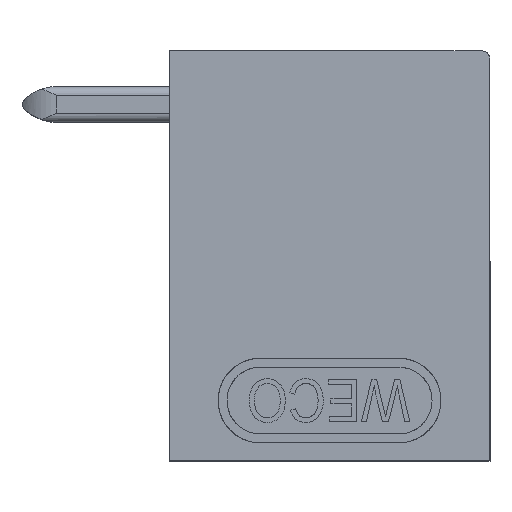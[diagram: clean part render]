
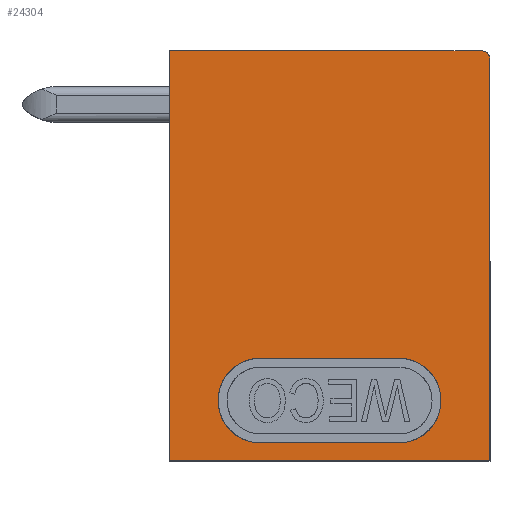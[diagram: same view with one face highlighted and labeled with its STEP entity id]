
A CAD part, top view. The second image highlights one B-rep face of the part: STEP entity #24304.
In plain terms, the highlighted planar face has unit normal (0, 0, 1).
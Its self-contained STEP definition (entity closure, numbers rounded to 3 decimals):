
#3540 = VERTEX_POINT ( 'NONE', #22873 ) ;
#7640 = EDGE_CURVE ( 'NONE', #7659, #7716, #14999, .T. ) ;
#7653 = VERTEX_POINT ( 'NONE', #14975 ) ;
#7659 = VERTEX_POINT ( 'NONE', #15022 ) ;
#7661 = EDGE_CURVE ( 'NONE', #7653, #7659, #15019, .T. ) ;
#7680 = EDGE_CURVE ( 'NONE', #7694, #7760, #15096, .T. ) ;
#7685 = EDGE_CURVE ( 'NONE', #7760, #7710, #15072, .T. ) ;
#7689 = EDGE_CURVE ( 'NONE', #7710, #3540, #15068, .T. ) ;
#7694 = VERTEX_POINT ( 'NONE', #15110 ) ;
#7696 = EDGE_CURVE ( 'NONE', #3540, #7694, #15109, .T. ) ;
#7702 = VERTEX_POINT ( 'NONE', #15165 ) ;
#7704 = EDGE_CURVE ( 'NONE', #7716, #7702, #15164, .T. ) ;
#7710 = VERTEX_POINT ( 'NONE', #15150 ) ;
#7716 = VERTEX_POINT ( 'NONE', #15141 ) ;
#7760 = VERTEX_POINT ( 'NONE', #15207 ) ;
#14975 = CARTESIAN_POINT ( 'NONE',  ( 3.9, 8.75, 0. ) ) ;
#14996 = DIRECTION ( 'NONE',  ( -1., 0., 0. ) ) ;
#14997 = VECTOR ( 'NONE', #14996, 1000. ) ;
#14998 = CARTESIAN_POINT ( 'NONE',  ( 0.3, 8.95, 0. ) ) ;
#14999 = LINE ( 'NONE', #14998, #14997 ) ;
#15010 = CARTESIAN_POINT ( 'NONE',  ( 3.7, 8.95, 0. ) ) ;
#15011 = CARTESIAN_POINT ( 'NONE',  ( 3.727, 8.95, 0. ) ) ;
#15012 = CARTESIAN_POINT ( 'NONE',  ( 3.753, 8.945, 0. ) ) ;
#15013 = CARTESIAN_POINT ( 'NONE',  ( 3.8, 8.925, 0. ) ) ;
#15014 = CARTESIAN_POINT ( 'NONE',  ( 3.823, 8.91, 0. ) ) ;
#15015 = CARTESIAN_POINT ( 'NONE',  ( 3.878, 8.855, 0. ) ) ;
#15016 = CARTESIAN_POINT ( 'NONE',  ( 3.9, 8.804, 0. ) ) ;
#15017 = CARTESIAN_POINT ( 'NONE',  ( 3.9, 8.75, 0. ) ) ;
#15019 = B_SPLINE_CURVE_WITH_KNOTS ( 'NONE', 3,
 ( #15017, #15016, #15015, #15014, #15013, #15012, #15011, #15010 ),
 .UNSPECIFIED., .F., .F.,
 ( 4, 2, 2, 4 ),
 ( 0., 0.5, 0.75, 1. ),
 .UNSPECIFIED. ) ;
#15022 = CARTESIAN_POINT ( 'NONE',  ( 3.7, 8.95, 0. ) ) ;
#15066 = CARTESIAN_POINT ( 'NONE',  ( -1.376, 0.15, 0. ) ) ;
#15067 = CARTESIAN_POINT ( 'NONE',  ( -1.25, 0.15, 0. ) ) ;
#15068 = B_SPLINE_CURVE_WITH_KNOTS ( 'NONE', 3,
 ( #15067, #15066, #15130, #15129, #15128, #15127, #15126, #15125, #15124, #15123, #15122, #15121, #15120, #15119, #15118, #15117, #15116, #15115 ),
 .UNSPECIFIED., .F., .F.,
 ( 4, 2, 2, 2, 2, 2, 2, 2, 4 ),
 ( 0., 0.125, 0.25, 0.375, 0.5, 0.625, 0.75, 0.875, 1. ),
 .UNSPECIFIED. ) ;
#15069 = DIRECTION ( 'NONE',  ( -1., 0., 0. ) ) ;
#15070 = VECTOR ( 'NONE', #15069, 1000. ) ;
#15071 = CARTESIAN_POINT ( 'NONE',  ( 0.3, 0.15, 0. ) ) ;
#15072 = LINE ( 'NONE', #15071, #15070 ) ;
#15073 = CARTESIAN_POINT ( 'NONE',  ( 1.85, 0.15, 0. ) ) ;
#15074 = CARTESIAN_POINT ( 'NONE',  ( 1.976, 0.15, 0. ) ) ;
#15075 = CARTESIAN_POINT ( 'NONE',  ( 2.097, 0.174, 0. ) ) ;
#15076 = CARTESIAN_POINT ( 'NONE',  ( 2.329, 0.27, 0. ) ) ;
#15077 = CARTESIAN_POINT ( 'NONE',  ( 2.433, 0.339, 0. ) ) ;
#15078 = CARTESIAN_POINT ( 'NONE',  ( 2.61, 0.517, 0. ) ) ;
#15079 = CARTESIAN_POINT ( 'NONE',  ( 2.679, 0.62, 0. ) ) ;
#15080 = CARTESIAN_POINT ( 'NONE',  ( 2.775, 0.852, 0. ) ) ;
#15081 = CARTESIAN_POINT ( 'NONE',  ( 2.8, 0.974, 0. ) ) ;
#15082 = CARTESIAN_POINT ( 'NONE',  ( 2.8, 1.225, 0. ) ) ;
#15083 = CARTESIAN_POINT ( 'NONE',  ( 2.776, 1.347, 0. ) ) ;
#15084 = CARTESIAN_POINT ( 'NONE',  ( 2.679, 1.579, 0. ) ) ;
#15085 = CARTESIAN_POINT ( 'NONE',  ( 2.61, 1.683, 0. ) ) ;
#15086 = CARTESIAN_POINT ( 'NONE',  ( 2.433, 1.86, 0. ) ) ;
#15087 = CARTESIAN_POINT ( 'NONE',  ( 2.329, 1.929, 0. ) ) ;
#15088 = CARTESIAN_POINT ( 'NONE',  ( 2.097, 2.025, 0. ) ) ;
#15089 = CARTESIAN_POINT ( 'NONE',  ( 1.976, 2.05, 0. ) ) ;
#15090 = CARTESIAN_POINT ( 'NONE',  ( 1.85, 2.05, 0. ) ) ;
#15096 = B_SPLINE_CURVE_WITH_KNOTS ( 'NONE', 3,
 ( #15090, #15089, #15088, #15087, #15086, #15085, #15084, #15083, #15082, #15081, #15080, #15079, #15078, #15077, #15076, #15075, #15074, #15073 ),
 .UNSPECIFIED., .F., .F.,
 ( 4, 2, 2, 2, 2, 2, 2, 2, 4 ),
 ( 0., 0.125, 0.25, 0.375, 0.5, 0.625, 0.75, 0.875, 1. ),
 .UNSPECIFIED. ) ;
#15106 = DIRECTION ( 'NONE',  ( 1., 0., 0. ) ) ;
#15107 = VECTOR ( 'NONE', #15106, 1000. ) ;
#15108 = CARTESIAN_POINT ( 'NONE',  ( 0.3, 2.05, 0. ) ) ;
#15109 = LINE ( 'NONE', #15108, #15107 ) ;
#15110 = CARTESIAN_POINT ( 'NONE',  ( 1.85, 2.05, 0. ) ) ;
#15115 = CARTESIAN_POINT ( 'NONE',  ( -1.25, 2.05, 0. ) ) ;
#15116 = CARTESIAN_POINT ( 'NONE',  ( -1.377, 2.05, 0. ) ) ;
#15117 = CARTESIAN_POINT ( 'NONE',  ( -1.498, 2.026, 0. ) ) ;
#15118 = CARTESIAN_POINT ( 'NONE',  ( -1.73, 1.929, 0. ) ) ;
#15119 = CARTESIAN_POINT ( 'NONE',  ( -1.833, 1.86, 0. ) ) ;
#15120 = CARTESIAN_POINT ( 'NONE',  ( -2.011, 1.683, 0. ) ) ;
#15121 = CARTESIAN_POINT ( 'NONE',  ( -2.08, 1.579, 0. ) ) ;
#15122 = CARTESIAN_POINT ( 'NONE',  ( -2.176, 1.347, 0. ) ) ;
#15123 = CARTESIAN_POINT ( 'NONE',  ( -2.2, 1.225, 0. ) ) ;
#15124 = CARTESIAN_POINT ( 'NONE',  ( -2.2, 0.974, 0. ) ) ;
#15125 = CARTESIAN_POINT ( 'NONE',  ( -2.176, 0.852, 0. ) ) ;
#15126 = CARTESIAN_POINT ( 'NONE',  ( -2.08, 0.62, 0. ) ) ;
#15127 = CARTESIAN_POINT ( 'NONE',  ( -2.011, 0.517, 0. ) ) ;
#15128 = CARTESIAN_POINT ( 'NONE',  ( -1.833, 0.339, 0. ) ) ;
#15129 = CARTESIAN_POINT ( 'NONE',  ( -1.73, 0.27, 0. ) ) ;
#15130 = CARTESIAN_POINT ( 'NONE',  ( -1.498, 0.174, 0. ) ) ;
#15141 = CARTESIAN_POINT ( 'NONE',  ( -3.3, 8.95, 0. ) ) ;
#15150 = CARTESIAN_POINT ( 'NONE',  ( -1.25, 0.15, 0. ) ) ;
#15161 = DIRECTION ( 'NONE',  ( 0., -1., 0. ) ) ;
#15162 = VECTOR ( 'NONE', #15161, 1000. ) ;
#15163 = CARTESIAN_POINT ( 'NONE',  ( -3.3, 4.35, 0. ) ) ;
#15164 = LINE ( 'NONE', #15163, #15162 ) ;
#15165 = CARTESIAN_POINT ( 'NONE',  ( -3.3, -0.25, 0. ) ) ;
#15207 = CARTESIAN_POINT ( 'NONE',  ( 1.85, 0.15, 0. ) ) ;
#16458 = CARTESIAN_POINT ( 'NONE',  ( 3.9, -0.25, 0. ) ) ;
#16544 = DIRECTION ( 'NONE',  ( -1., 0., 0. ) ) ;
#16545 = VECTOR ( 'NONE', #16544, 1000. ) ;
#16546 = CARTESIAN_POINT ( 'NONE',  ( 0.3, -0.25, 0. ) ) ;
#16547 = LINE ( 'NONE', #16546, #16545 ) ;
#16548 = DIRECTION ( 'NONE',  ( 1., 0., 0. ) ) ;
#16549 = DIRECTION ( 'NONE',  ( 0., 0., 1. ) ) ;
#16550 = CARTESIAN_POINT ( 'NONE',  ( -3.3, -0.25, 0. ) ) ;
#16551 = AXIS2_PLACEMENT_3D ( 'NONE', #16550, #16549, #16548 ) ;
#16552 = PLANE ( 'NONE',  #16551 ) ;
#16553 = FACE_OUTER_BOUND ( 'NONE', #24318, .T. ) ;
#16554 = FACE_BOUND ( 'NONE', #24171, .T. ) ;
#16559 = DIRECTION ( 'NONE',  ( 0., 1., 0. ) ) ;
#16560 = VECTOR ( 'NONE', #16559, 1000. ) ;
#16561 = CARTESIAN_POINT ( 'NONE',  ( 3.9, 4.35, 0. ) ) ;
#16562 = LINE ( 'NONE', #16561, #16560 ) ;
#22873 = CARTESIAN_POINT ( 'NONE',  ( -1.25, 2.05, 0. ) ) ;
#24166 = ORIENTED_EDGE ( 'NONE', *, *, #7680, .T. ) ;
#24171 = EDGE_LOOP ( 'NONE', ( #24166, #24327, #24317, #24323 ) ) ;
#24226 = VERTEX_POINT ( 'NONE', #16458 ) ;
#24291 = EDGE_CURVE ( 'NONE', #24226, #7653, #16562, .T. ) ;
#24304 = ADVANCED_FACE ( 'NONE', ( #16554, #16553 ), #16552, .T. ) ;
#24316 = ORIENTED_EDGE ( 'NONE', *, *, #7661, .T. ) ;
#24317 = ORIENTED_EDGE ( 'NONE', *, *, #7689, .T. ) ;
#24318 = EDGE_LOOP ( 'NONE', ( #24321, #24319, #24316, #24322, #24320 ) ) ;
#24319 = ORIENTED_EDGE ( 'NONE', *, *, #24291, .T. ) ;
#24320 = ORIENTED_EDGE ( 'NONE', *, *, #7704, .T. ) ;
#24321 = ORIENTED_EDGE ( 'NONE', *, *, #24325, .F. ) ;
#24322 = ORIENTED_EDGE ( 'NONE', *, *, #7640, .T. ) ;
#24323 = ORIENTED_EDGE ( 'NONE', *, *, #7696, .T. ) ;
#24325 = EDGE_CURVE ( 'NONE', #24226, #7702, #16547, .T. ) ;
#24327 = ORIENTED_EDGE ( 'NONE', *, *, #7685, .T. ) ;
